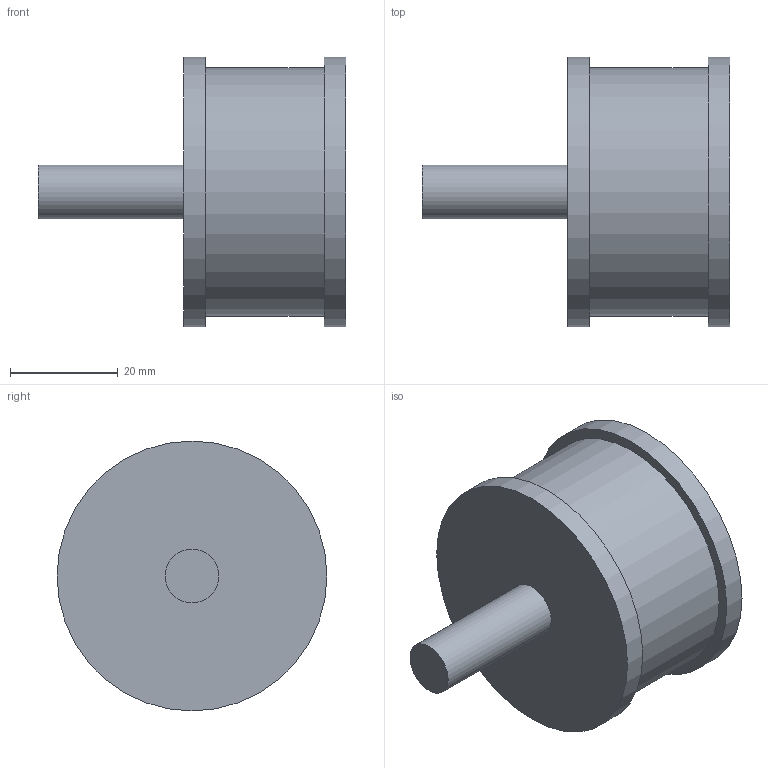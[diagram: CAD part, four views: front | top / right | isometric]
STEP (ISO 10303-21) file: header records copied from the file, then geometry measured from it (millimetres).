
FILE_DESCRIPTION(('STEP AP214'), '1');
FILE_NAME('BS5030 - 鎔摫闇瀁譇', '', ('UNSPECIFIED'), ('UNSPECIFIED'), 'ASCON STEP Converter 1.3', 'ASCON Math Kernel', '');
FILE_SCHEMA(('AUTOMOTIVE_DESIGN { 1 0 10303 214 3 1 1}'));
Length unit declared in the file: millimetre
Bounding box: 57 x 50 x 50 mm (x, y, z)
Volume: 53674 mm3; surface area: 10156.4 mm2
Topology: 1 solids, 1 shells, 11 faces, 15 edges, 10 vertices
Faces by surface type: plane 6, cylinder 5
Full cylindrical faces by diameter (mm): 8.376 x1, 10 x1, 46 x1, 50 x2
Entity records: 341 total; most frequent: DIRECTION 44, CARTESIAN_POINT 32, AXIS2_PLACEMENT_3D 22, EDGE_LOOP 20, ORIENTED_EDGE 20, COLOUR_RGB 12, FILL_AREA_STYLE_COLOUR 12, FILL_AREA_STYLE 12
